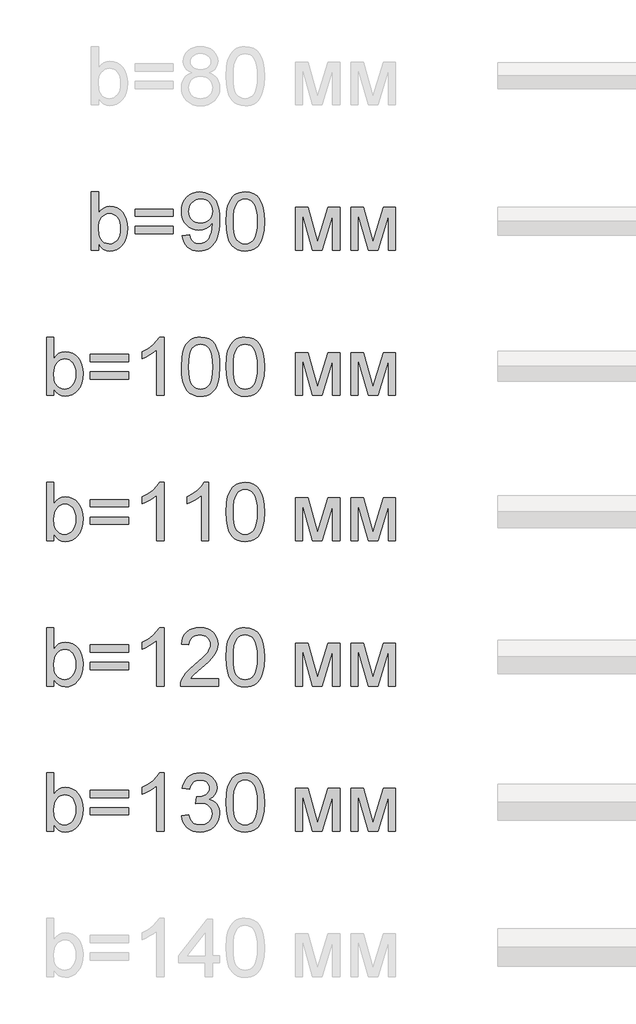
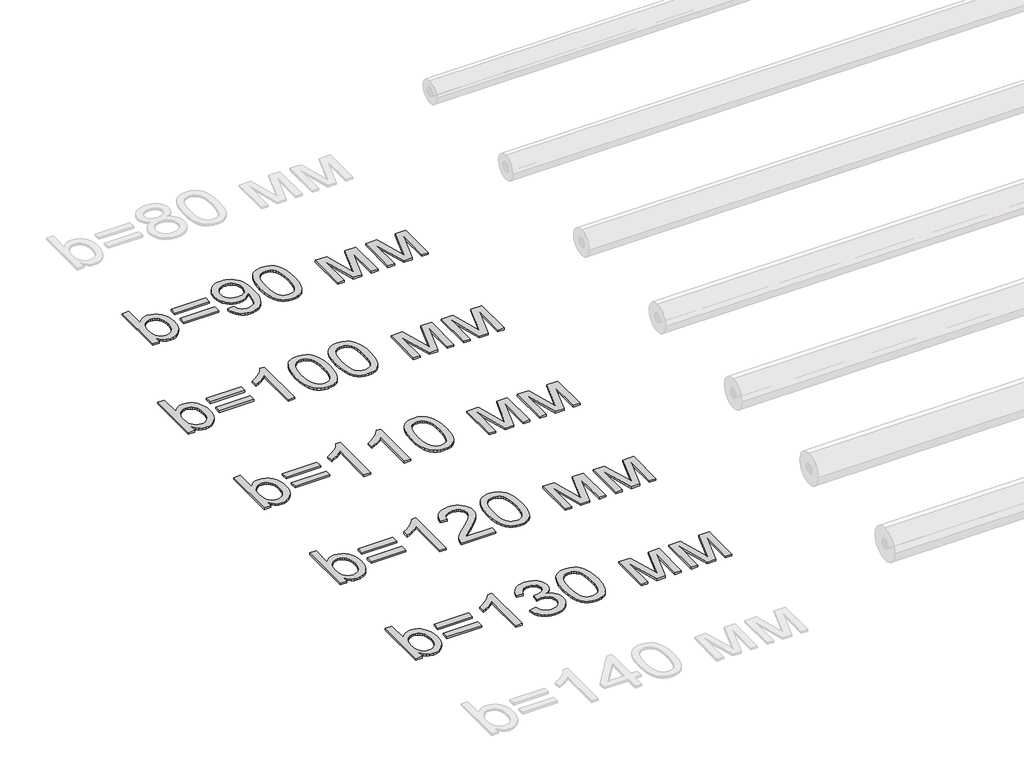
# One storey, part 57 of 86: 5 proxies.
"""IFC4 building model written with IfcOpenShell, lengths in millimetres."""

from ifc_helpers import new_model, si_unit, origin, origin_with_axes, place, context, project, spatial, polyline, outline, extrude, element, save

model = new_model("IFC4")

# Units and contexts
model_context = context("Model", 3, world=origin())
ifc_project = project(units=[si_unit("LENGTHUNIT", "METRE", prefix="MILLI")], contexts=[model_context])

# Site, building, storey
site = spatial("IfcSite", under=ifc_project)
building = spatial("IfcBuilding", under=site)
storey = spatial("IfcBuildingStorey", under=building, Name="Уровень 1", Elevation=0.0)

# Proxies
placement = place(None, origin())
element("IfcBuildingElementProxy", 1, Name="Текст модели 1", ObjectType="Текст модели 1", at=placement, inside=storey, context=model_context, shape_type="SweptSolid", body=[
    extrude(outline(polyline([(23159.6307988, 47169.2937088), (23084.2885662, 47169.2937088), (23084.2885662, 47772.0315697), (23159.6307988, 47772.0315697), (23159.6307988, 47548.5064694), (23184.4076512, 47580.3742473), (23212.3850769, 47603.1369457), (23243.563076, 47616.7945648), (23277.9416484, 47621.3471045), (23316.7531989, 47617.2452202), (23353.4310339, 47604.9395675), (23385.8782258, 47585.2026984), (23411.9978475, 47558.8071653), (23432.4704805, 47526.0104854), (23447.9767066, 47487.0701762), (23457.7439736, 47443.6049185), (23460.9997292, 47397.233393), (23457.6290105, 47343.7249568), (23447.5168541, 47296.6544555), (23430.6632602, 47256.0218892), (23407.0682288, 47221.8272577), (23378.7459136, 47194.7235517), (23347.7104688, 47175.3637617), (23313.9618943, 47163.7478877), (23277.50019, 47159.8759297), (23241.9903805, 47164.8699278), (23210.5088787, 47179.8519221), (23183.0556848, 47204.8219125), (23159.6307988, 47239.7798991), (23159.6307988, 47169.2937088)]), holes=[polyline([(23159.6307988, 47393.7017259), (23164.7811467, 47330.8674811), (23171.2190816, 47307.065516), (23180.2321905, 47288.3403224), (23198.4883345, 47265.0993774), (23219.7059286, 47248.4987024), (23243.8849727, 47238.5382973), (23271.0254669, 47235.2181623), (23293.5582391, 47237.6645776), (23314.5091188, 47245.0038234), (23333.8781058, 47257.2358997), (23351.6652003, 47274.3608066), (23366.5368299, 47296.3325588), (23377.1594225, 47323.105171), (23383.5329781, 47354.6786432), (23385.6574966, 47391.0529755), (23383.6203501, 47428.1170865), (23377.5089104, 47459.9940614), (23367.3231777, 47486.6839001), (23353.0631519, 47508.1866028), (23335.9152524, 47524.7320955), (23317.0658986, 47536.5503046), (23296.5150907, 47543.64123), (23274.2628285, 47546.0048719), (23251.7300563, 47543.5584566), (23230.7791767, 47536.2192108), (23211.4101896, 47523.9871344), (23193.6230951, 47506.8622276), (23178.7514655, 47485.1112046), (23168.1288729, 47459.00078), (23161.7553173, 47428.5309538), (23159.6307988, 47393.7017259)])]), origin_with_axes(), (0.0, 0.0, 1.0), 20.0),
    extrude(outline(polyline([(23931.8886831, 47517.7515346), (23536.3419619, 47517.7515346), (23536.3419619, 47593.0937672), (23931.8886831, 47593.0937672), (23931.8886831, 47517.7515346)])), origin_with_axes(), (0.0, 0.0, 1.0), 20.0),
    extrude(outline(polyline([(23931.8886831, 47338.8137322), (23536.3419619, 47338.8137322), (23536.3419619, 47414.1559648), (23931.8886831, 47414.1559648), (23931.8886831, 47338.8137322)])), origin_with_axes(), (0.0, 0.0, 1.0), 20.0),
    extrude(outline(polyline([(24026.0664738, 47319.978174), (24101.4087064, 47329.3959531), (24114.2845763, 47286.6296712), (24123.7575377, 47270.3646884), (24135.25385, 47257.5118112), (24148.6447546, 47247.7583398), (24163.8014928, 47240.7915746), (24199.41247, 47235.2181623), (24231.3630212, 47238.8050118), (24260.4073048, 47249.5655601), (24284.5403636, 47266.322585), (24301.757241, 47287.898864), (24314.7986577, 47316.2625659), (24326.4053347, 47353.3818592), (24334.572315, 47395.9825942), (24337.2946418, 47440.7906212), (24336.8531834, 47455.505901), (24310.7519558, 47423.6473203), (24276.5941126, 47398.4106154), (24236.844463, 47381.9662902), (24193.9678164, 47376.4848485), (24158.1774968, 47379.8325746), (24125.2658538, 47389.8757531), (24095.2328875, 47406.6143839), (24068.0785977, 47430.048467), (24045.5780152, 47458.9547948), (24029.5061705, 47492.1101596), (24019.8630637, 47529.5145614), (24016.6486948, 47571.1680003), (24020.0194135, 47614.2101938), (24030.1315699, 47652.8378033), (24046.9851638, 47687.0508288), (24070.5801953, 47716.8492704), (24099.2519983, 47740.9915264), (24131.3359068, 47758.2359949), (24166.8319208, 47768.582676), (24205.7400403, 47772.0315697), (24234.4670256, 47770.063401), (24261.934015, 47764.158895), (24288.1410087, 47754.3180516), (24313.0880065, 47740.5408709), (24335.9426754, 47723.1216584), (24355.8726825, 47702.3547198), (24372.8780277, 47678.240055), (24386.9587111, 47650.7776641), (24397.9997695, 47618.3856544), (24405.8862398, 47579.4821334), (24410.6181219, 47534.0671011), (24412.195416, 47482.1405575), (24410.6227204, 47427.6066502), (24405.9046339, 47378.9312638), (24398.0411562, 47336.114398), (24387.0322875, 47299.1560531), (24372.9194145, 47267.154918), (24355.7439238, 47239.209682), (24335.5058156, 47215.3203449), (24312.2050897, 47195.4869069), (24286.3107957, 47179.9071044), (24258.2919833, 47168.778674), (24228.1486523, 47162.1016158), (24195.8808028, 47159.8759297), (24162.0448563, 47162.5016875), (24131.4646655, 47170.3789607), (24104.1402303, 47183.5077494), (24080.0715507, 47201.8880536), (24059.8656321, 47225.0232325), (24044.1294798, 47252.4166456), (24032.8630937, 47284.0682928), (24026.0664738, 47319.978174)]), holes=[polyline([(24336.8531834, 47572.9338339), (24334.8206353, 47599.9363724), (24328.7229913, 47623.9958548), (24318.5602511, 47645.1122814), (24304.332415, 47663.2856519), (24286.7384586, 47677.8997642), (24266.4773577, 47688.3384158), (24243.5491123, 47694.6016068), (24217.9537225, 47696.6893371), (24191.5397953, 47694.4406584), (24167.6274656, 47687.6946223), (24146.2167335, 47676.4512288), (24127.3075989, 47660.710478), (24111.8565551, 47641.3920747), (24100.8200953, 47619.415724), (24094.1982193, 47594.7814259), (24091.9909274, 47567.4891804), (24094.0786577, 47543.0112321), (24100.3418487, 47520.9337139), (24110.7805003, 47501.2566257), (24125.3946125, 47483.9799675), (24143.5771801, 47469.9130797), (24164.7211978, 47459.8653027), (24188.8266656, 47453.8366365), (24215.8935833, 47451.8270811), (24241.1348867, 47453.8366365), (24264.0309424, 47459.8653027), (24284.5817504, 47469.9130797), (24302.7873106, 47483.9799675), (24317.6911299, 47501.5969165), (24328.3367152, 47522.2948773), (24334.7240663, 47546.0738497), (24336.8531834, 47572.9338339)])]), origin_with_axes(), (0.0, 0.0, 1.0), 20.0),
    extrude(outline(polyline([(24478.1198695, 47465.8065969), (24483.6564935, 47562.2836501), (24490.5772736, 47603.1967265), (24500.2663656, 47639.2261694), (24512.682383, 47670.6662845), (24527.7839389, 47697.8113772), (24545.5710333, 47720.6614476), (24566.0436664, 47739.2164957), (24589.2708158, 47753.5730906), (24615.3214596, 47763.8278012), (24644.1955977, 47769.9806276), (24675.8932301, 47772.0315697), (24722.3199379, 47767.1755274), (24763.8906034, 47752.6074004), (24798.6554519, 47728.8974058), (24824.664709, 47696.6157607), (24844.3096075, 47656.0383766), (24859.9813805, 47607.4411651), (24870.2452882, 47545.7289604), (24873.6665907, 47465.8065969), (24868.185149, 47369.8813667), (24861.3333468, 47329.106246), (24851.7408238, 47293.1227884), (24839.4213755, 47261.6688778), (24824.3887975, 47234.4823983), (24806.6430897, 47211.56335), (24786.1842523, 47192.9117329), (24762.9295116, 47178.458569), (24736.7960944, 47168.1348805), (24707.7840006, 47161.9406674), (24675.8932301, 47159.8759297), (24634.3961411, 47163.4627792), (24597.6079415, 47174.2233275), (24565.5286316, 47192.1575748), (24538.1582111, 47217.265521), (24511.8914367, 47262.6529621), (24493.1294549, 47319.2056218), (24481.8722659, 47386.9235001), (24478.1198695, 47465.8065969)]), holes=[polyline([(24553.4621021, 47465.9537497), (24555.6693941, 47400.456959), (24562.29127, 47347.440565), (24573.3277299, 47306.9045676), (24588.7787737, 47278.848967), (24607.467179, 47259.7604899), (24628.2157235, 47246.1258635), (24651.0244072, 47237.9450876), (24675.8932301, 47235.2181623), (24700.762053, 47237.9542847), (24723.5707367, 47246.1626517), (24744.3192812, 47259.8432634), (24763.0076866, 47278.9961198), (24778.4587304, 47307.0977057), (24789.4951902, 47347.624506), (24796.1170661, 47400.5765206), (24798.3243581, 47465.9537497), (24796.1906425, 47529.7168965), (24789.7894958, 47581.79979), (24779.120918, 47622.2024301), (24764.184909, 47650.9248169), (24745.8092033, 47670.9467945), (24724.8215355, 47685.248207), (24701.2219055, 47693.8290546), (24675.0103133, 47696.6893371), (24650.2702492, 47694.1693454), (24627.8478415, 47686.6093704), (24607.7430905, 47674.0094121), (24589.955996, 47656.3694704), (24573.9899175, 47625.0995008), (24562.5855756, 47582.9402242), (24555.7429705, 47529.8916405), (24553.4621021, 47465.9537497)])]), origin_with_axes(), (0.0, 0.0, 1.0), 20.0),
    extrude(outline(polyline([(25193.8710793, 47611.9293254), (25323.5126944, 47611.9293254), (25423.4294443, 47257.5853876), (25531.1452925, 47611.9293254), (25655.3422541, 47611.9293254), (25655.3422541, 47169.2937088), (25580.0000215, 47169.2937088), (25580.0000215, 47525.6977857), (25471.6955621, 47169.2937088), (25372.8088818, 47169.2937088), (25269.2133119, 47542.7675103), (25269.2133119, 47169.2937088), (25193.8710793, 47169.2937088), (25193.8710793, 47611.9293254)])), origin_with_axes(), (0.0, 0.0, 1.0), 20.0),
    extrude(outline(polyline([(25768.355603, 47611.9293254), (25897.9972181, 47611.9293254), (25997.913968, 47257.5853876), (26105.6298162, 47611.9293254), (26229.8267777, 47611.9293254), (26229.8267777, 47169.2937088), (26154.4845451, 47169.2937088), (26154.4845451, 47525.6977857), (26046.1800857, 47169.2937088), (25947.2934054, 47169.2937088), (25843.6978356, 47542.7675103), (25843.6978356, 47169.2937088), (25768.355603, 47169.2937088), (25768.355603, 47611.9293254)])), origin_with_axes(), (0.0, 0.0, 1.0), 20.0),
])
element("IfcBuildingElementProxy", 2, Name="Текст модели 1", ObjectType="Текст модели 1", at=placement, inside=storey, context=model_context, shape_type="SweptSolid", body=[
    extrude(outline(polyline([(22698.159624, 45669.2937088), (22622.8173914, 45669.2937088), (22622.8173914, 46272.0315697), (22698.159624, 46272.0315697), (22698.159624, 46048.5064694), (22722.9364764, 46080.3742473), (22750.9139022, 46103.1369457), (22782.0919012, 46116.7945648), (22816.4704737, 46121.3471045), (22855.2820242, 46117.2452202), (22891.9598591, 46104.9395675), (22924.4070511, 46085.2026984), (22950.5266727, 46058.8071653), (22970.9993058, 46026.0104854), (22986.5055319, 45987.0701762), (22996.2727988, 45943.6049185), (22999.5285545, 45897.233393), (22996.1578357, 45843.7249568), (22986.0456794, 45796.6544555), (22969.1920855, 45756.0218892), (22945.597054, 45721.8272577), (22917.2747389, 45694.7235517), (22886.2392941, 45675.3637617), (22852.4907195, 45663.7478877), (22816.0290153, 45659.8759297), (22780.5192057, 45664.8699278), (22749.037704, 45679.8519221), (22721.5845101, 45704.8219125), (22698.159624, 45739.7798991), (22698.159624, 45669.2937088)]), holes=[polyline([(22698.159624, 45893.7017259), (22703.309972, 45830.8674811), (22709.7479069, 45807.065516), (22718.7610158, 45788.3403224), (22737.0171598, 45765.0993774), (22758.2347539, 45748.4987024), (22782.413798, 45738.5382973), (22809.5542922, 45735.2181623), (22832.0870644, 45737.6645776), (22853.037944, 45745.0038234), (22872.4069311, 45757.2358997), (22890.1940255, 45774.3608066), (22905.0656552, 45796.3325588), (22915.6882478, 45823.105171), (22922.0618034, 45854.6786432), (22924.1863219, 45891.0529755), (22922.1491753, 45928.1170865), (22916.0377357, 45959.9940614), (22905.8520029, 45986.6839001), (22891.5919771, 46008.1866028), (22874.4440776, 46024.7320955), (22855.5947239, 46036.5503046), (22835.0439159, 46043.64123), (22812.7916537, 46046.0048719), (22790.2588815, 46043.5584566), (22769.3080019, 46036.2192108), (22749.9390149, 46023.9871344), (22732.1519204, 46006.8622276), (22717.2802907, 45985.1112046), (22706.6576981, 45959.00078), (22700.2841426, 45928.5309538), (22698.159624, 45893.7017259)])]), origin_with_axes(), (0.0, 0.0, 1.0), 20.0),
    extrude(outline(polyline([(23470.4175083, 46017.7515346), (23074.8707871, 46017.7515346), (23074.8707871, 46093.0937672), (23470.4175083, 46093.0937672), (23470.4175083, 46017.7515346)])), origin_with_axes(), (0.0, 0.0, 1.0), 20.0),
    extrude(outline(polyline([(23470.4175083, 45838.8137322), (23074.8707871, 45838.8137322), (23074.8707871, 45914.1559648), (23470.4175083, 45914.1559648), (23470.4175083, 45838.8137322)])), origin_with_axes(), (0.0, 0.0, 1.0), 20.0),
    extrude(outline(polyline([(23837.7108923, 45669.2937088), (23762.3686597, 45669.2937088), (23762.3686597, 46139.0054402), (23730.9147491, 46113.5664003), (23690.9995526, 46088.1641485), (23649.0977934, 46065.9624701), (23611.6841945, 46050.1251502), (23611.6841945, 46121.3471045), (23670.8580134, 46153.5367791), (23722.1223694, 46191.8332947), (23762.5342066, 46232.5578316), (23789.1504689, 46272.0315697), (23837.7108923, 46272.0315697), (23837.7108923, 45669.2937088)])), origin_with_axes(), (0.0, 0.0, 1.0), 20.0),
    extrude(outline(polyline([(24016.6486948, 45965.8065969), (24022.1853188, 46062.2836501), (24029.1060988, 46103.1967265), (24038.7951909, 46139.2261694), (24051.2112082, 46170.6662845), (24066.3127641, 46197.8113772), (24084.0998586, 46220.6614476), (24104.5724916, 46239.2164957), (24127.7996411, 46253.5730906), (24153.8502849, 46263.8278012), (24182.724423, 46269.9806276), (24214.4220554, 46272.0315697), (24260.8487632, 46267.1755274), (24302.4194286, 46252.6074004), (24337.1842772, 46228.8974058), (24363.1935342, 46196.6157607), (24382.8384328, 46156.0383766), (24398.5102058, 46107.4411651), (24408.7741134, 46045.7289604), (24412.195416, 45965.8065969), (24406.7139742, 45869.8813667), (24399.8621721, 45829.106246), (24390.2696491, 45793.1227884), (24377.9502007, 45761.6688778), (24362.9176227, 45734.4823983), (24345.171915, 45711.56335), (24324.7130775, 45692.9117329), (24301.4583369, 45678.458569), (24275.3249197, 45668.1348805), (24246.3128258, 45661.9406674), (24214.4220554, 45659.8759297), (24172.9249663, 45663.4627792), (24136.1367668, 45674.2233275), (24104.0574568, 45692.1575748), (24076.6870364, 45717.265521), (24050.4202619, 45762.6529621), (24031.6582802, 45819.2056218), (24020.4010911, 45886.9235001), (24016.6486948, 45965.8065969)]), holes=[polyline([(24091.9909274, 45965.9537497), (24094.1982193, 45900.456959), (24100.8200953, 45847.440565), (24111.8565551, 45806.9045676), (24127.3075989, 45778.848967), (24145.9960043, 45759.7604899), (24166.7445488, 45746.1258635), (24189.5532325, 45737.9450876), (24214.4220554, 45735.2181623), (24239.2908782, 45737.9542847), (24262.0995619, 45746.1626517), (24282.8481065, 45759.8432634), (24301.5365118, 45778.9961198), (24316.9875556, 45807.0977057), (24328.0240155, 45847.624506), (24334.6458914, 45900.5765206), (24336.8531834, 45965.9537497), (24334.7194678, 46029.7168965), (24328.3183211, 46081.79979), (24317.6497432, 46122.2024301), (24302.7137342, 46150.9248169), (24284.3380285, 46170.9467945), (24263.3503607, 46185.248207), (24239.7507307, 46193.8290546), (24213.5391386, 46196.6893371), (24188.7990744, 46194.1693454), (24166.3766668, 46186.6093704), (24146.2719158, 46174.0094121), (24128.4848213, 46156.3694704), (24112.5187427, 46125.0995008), (24101.1144009, 46082.9402242), (24094.2717957, 46029.8916405), (24091.9909274, 45965.9537497)])]), origin_with_axes(), (0.0, 0.0, 1.0), 20.0),
    extrude(outline(polyline([(24478.1198695, 45965.8065969), (24483.6564935, 46062.2836501), (24490.5772736, 46103.1967265), (24500.2663656, 46139.2261694), (24512.682383, 46170.6662845), (24527.7839389, 46197.8113772), (24545.5710333, 46220.6614476), (24566.0436664, 46239.2164957), (24589.2708158, 46253.5730906), (24615.3214596, 46263.8278012), (24644.1955977, 46269.9806276), (24675.8932301, 46272.0315697), (24722.3199379, 46267.1755274), (24763.8906034, 46252.6074004), (24798.6554519, 46228.8974058), (24824.664709, 46196.6157607), (24844.3096075, 46156.0383766), (24859.9813805, 46107.4411651), (24870.2452882, 46045.7289604), (24873.6665907, 45965.8065969), (24868.185149, 45869.8813667), (24861.3333468, 45829.106246), (24851.7408238, 45793.1227884), (24839.4213755, 45761.6688778), (24824.3887975, 45734.4823983), (24806.6430897, 45711.56335), (24786.1842523, 45692.9117329), (24762.9295116, 45678.458569), (24736.7960944, 45668.1348805), (24707.7840006, 45661.9406674), (24675.8932301, 45659.8759297), (24634.3961411, 45663.4627792), (24597.6079415, 45674.2233275), (24565.5286316, 45692.1575748), (24538.1582111, 45717.265521), (24511.8914367, 45762.6529621), (24493.1294549, 45819.2056218), (24481.8722659, 45886.9235001), (24478.1198695, 45965.8065969)]), holes=[polyline([(24553.4621021, 45965.9537497), (24555.6693941, 45900.456959), (24562.29127, 45847.440565), (24573.3277299, 45806.9045676), (24588.7787737, 45778.848967), (24607.467179, 45759.7604899), (24628.2157235, 45746.1258635), (24651.0244072, 45737.9450876), (24675.8932301, 45735.2181623), (24700.762053, 45737.9542847), (24723.5707367, 45746.1626517), (24744.3192812, 45759.8432634), (24763.0076866, 45778.9961198), (24778.4587304, 45807.0977057), (24789.4951902, 45847.624506), (24796.1170661, 45900.5765206), (24798.3243581, 45965.9537497), (24796.1906425, 46029.7168965), (24789.7894958, 46081.79979), (24779.120918, 46122.2024301), (24764.184909, 46150.9248169), (24745.8092033, 46170.9467945), (24724.8215355, 46185.248207), (24701.2219055, 46193.8290546), (24675.0103133, 46196.6893371), (24650.2702492, 46194.1693454), (24627.8478415, 46186.6093704), (24607.7430905, 46174.0094121), (24589.955996, 46156.3694704), (24573.9899175, 46125.0995008), (24562.5855756, 46082.9402242), (24555.7429705, 46029.8916405), (24553.4621021, 45965.9537497)])]), origin_with_axes(), (0.0, 0.0, 1.0), 20.0),
    extrude(outline(polyline([(25193.8710793, 46111.9293254), (25323.5126944, 46111.9293254), (25423.4294443, 45757.5853876), (25531.1452925, 46111.9293254), (25655.3422541, 46111.9293254), (25655.3422541, 45669.2937088), (25580.0000215, 45669.2937088), (25580.0000215, 46025.6977857), (25471.6955621, 45669.2937088), (25372.8088818, 45669.2937088), (25269.2133119, 46042.7675103), (25269.2133119, 45669.2937088), (25193.8710793, 45669.2937088), (25193.8710793, 46111.9293254)])), origin_with_axes(), (0.0, 0.0, 1.0), 20.0),
    extrude(outline(polyline([(25768.355603, 46111.9293254), (25897.9972181, 46111.9293254), (25997.913968, 45757.5853876), (26105.6298162, 46111.9293254), (26229.8267777, 46111.9293254), (26229.8267777, 45669.2937088), (26154.4845451, 45669.2937088), (26154.4845451, 46025.6977857), (26046.1800857, 45669.2937088), (25947.2934054, 45669.2937088), (25843.6978356, 46042.7675103), (25843.6978356, 45669.2937088), (25768.355603, 45669.2937088), (25768.355603, 46111.9293254)])), origin_with_axes(), (0.0, 0.0, 1.0), 20.0),
])
element("IfcBuildingElementProxy", 3, Name="Текст модели 1", ObjectType="Текст модели 1", at=placement, inside=storey, context=model_context, shape_type="SweptSolid", body=[
    extrude(outline(polyline([(22698.159624, 44169.2937088), (22622.8173914, 44169.2937088), (22622.8173914, 44772.0315697), (22698.159624, 44772.0315697), (22698.159624, 44548.5064694), (22722.9364764, 44580.3742473), (22750.9139022, 44603.1369457), (22782.0919012, 44616.7945648), (22816.4704737, 44621.3471045), (22855.2820242, 44617.2452202), (22891.9598591, 44604.9395675), (22924.4070511, 44585.2026984), (22950.5266727, 44558.8071653), (22970.9993058, 44526.0104854), (22986.5055319, 44487.0701762), (22996.2727988, 44443.6049185), (22999.5285545, 44397.233393), (22996.1578357, 44343.7249568), (22986.0456794, 44296.6544555), (22969.1920855, 44256.0218892), (22945.597054, 44221.8272577), (22917.2747389, 44194.7235517), (22886.2392941, 44175.3637617), (22852.4907195, 44163.7478877), (22816.0290153, 44159.8759297), (22780.5192057, 44164.8699278), (22749.037704, 44179.8519221), (22721.5845101, 44204.8219125), (22698.159624, 44239.7798991), (22698.159624, 44169.2937088)]), holes=[polyline([(22698.159624, 44393.7017259), (22703.309972, 44330.8674811), (22709.7479069, 44307.065516), (22718.7610158, 44288.3403224), (22737.0171598, 44265.0993774), (22758.2347539, 44248.4987024), (22782.413798, 44238.5382973), (22809.5542922, 44235.2181623), (22832.0870644, 44237.6645776), (22853.037944, 44245.0038234), (22872.4069311, 44257.2358997), (22890.1940255, 44274.3608066), (22905.0656552, 44296.3325588), (22915.6882478, 44323.105171), (22922.0618034, 44354.6786432), (22924.1863219, 44391.0529755), (22922.1491753, 44428.1170865), (22916.0377357, 44459.9940614), (22905.8520029, 44486.6839001), (22891.5919771, 44508.1866028), (22874.4440776, 44524.7320955), (22855.5947239, 44536.5503046), (22835.0439159, 44543.64123), (22812.7916537, 44546.0048719), (22790.2588815, 44543.5584566), (22769.3080019, 44536.2192108), (22749.9390149, 44523.9871344), (22732.1519204, 44506.8622276), (22717.2802907, 44485.1112046), (22706.6576981, 44459.00078), (22700.2841426, 44428.5309538), (22698.159624, 44393.7017259)])]), origin_with_axes(), (0.0, 0.0, 1.0), 20.0),
    extrude(outline(polyline([(23470.4175083, 44517.7515346), (23074.8707871, 44517.7515346), (23074.8707871, 44593.0937672), (23470.4175083, 44593.0937672), (23470.4175083, 44517.7515346)])), origin_with_axes(), (0.0, 0.0, 1.0), 20.0),
    extrude(outline(polyline([(23470.4175083, 44338.8137322), (23074.8707871, 44338.8137322), (23074.8707871, 44414.1559648), (23470.4175083, 44414.1559648), (23470.4175083, 44338.8137322)])), origin_with_axes(), (0.0, 0.0, 1.0), 20.0),
    extrude(outline(polyline([(23837.7108923, 44169.2937088), (23762.3686597, 44169.2937088), (23762.3686597, 44639.0054402), (23730.9147491, 44613.5664003), (23690.9995526, 44588.1641485), (23649.0977934, 44565.9624701), (23611.6841945, 44550.1251502), (23611.6841945, 44621.3471045), (23670.8580134, 44653.5367791), (23722.1223694, 44691.8332947), (23762.5342066, 44732.5578316), (23789.1504689, 44772.0315697), (23837.7108923, 44772.0315697), (23837.7108923, 44169.2937088)])), origin_with_axes(), (0.0, 0.0, 1.0), 20.0),
    extrude(outline(polyline([(24299.1820671, 44169.2937088), (24223.8398344, 44169.2937088), (24223.8398344, 44639.0054402), (24192.3859239, 44613.5664003), (24152.4707274, 44588.1641485), (24110.5689681, 44565.9624701), (24073.1553692, 44550.1251502), (24073.1553692, 44621.3471045), (24132.3291881, 44653.5367791), (24183.5935442, 44691.8332947), (24224.0053813, 44732.5578316), (24250.6216437, 44772.0315697), (24299.1820671, 44772.0315697), (24299.1820671, 44169.2937088)])), origin_with_axes(), (0.0, 0.0, 1.0), 20.0),
    extrude(outline(polyline([(24478.1198695, 44465.8065969), (24483.6564935, 44562.2836501), (24490.5772736, 44603.1967265), (24500.2663656, 44639.2261694), (24512.682383, 44670.6662845), (24527.7839389, 44697.8113772), (24545.5710333, 44720.6614476), (24566.0436664, 44739.2164957), (24589.2708158, 44753.5730906), (24615.3214596, 44763.8278012), (24644.1955977, 44769.9806276), (24675.8932301, 44772.0315697), (24722.3199379, 44767.1755274), (24763.8906034, 44752.6074004), (24798.6554519, 44728.8974058), (24824.664709, 44696.6157607), (24844.3096075, 44656.0383766), (24859.9813805, 44607.4411651), (24870.2452882, 44545.7289604), (24873.6665907, 44465.8065969), (24868.185149, 44369.8813667), (24861.3333468, 44329.106246), (24851.7408238, 44293.1227884), (24839.4213755, 44261.6688778), (24824.3887975, 44234.4823983), (24806.6430897, 44211.56335), (24786.1842523, 44192.9117329), (24762.9295116, 44178.458569), (24736.7960944, 44168.1348805), (24707.7840006, 44161.9406674), (24675.8932301, 44159.8759297), (24634.3961411, 44163.4627792), (24597.6079415, 44174.2233275), (24565.5286316, 44192.1575748), (24538.1582111, 44217.265521), (24511.8914367, 44262.6529621), (24493.1294549, 44319.2056218), (24481.8722659, 44386.9235001), (24478.1198695, 44465.8065969)]), holes=[polyline([(24553.4621021, 44465.9537497), (24555.6693941, 44400.456959), (24562.29127, 44347.440565), (24573.3277299, 44306.9045676), (24588.7787737, 44278.848967), (24607.467179, 44259.7604899), (24628.2157235, 44246.1258635), (24651.0244072, 44237.9450876), (24675.8932301, 44235.2181623), (24700.762053, 44237.9542847), (24723.5707367, 44246.1626517), (24744.3192812, 44259.8432634), (24763.0076866, 44278.9961198), (24778.4587304, 44307.0977057), (24789.4951902, 44347.624506), (24796.1170661, 44400.5765206), (24798.3243581, 44465.9537497), (24796.1906425, 44529.7168965), (24789.7894958, 44581.79979), (24779.120918, 44622.2024301), (24764.184909, 44650.9248169), (24745.8092033, 44670.9467945), (24724.8215355, 44685.248207), (24701.2219055, 44693.8290546), (24675.0103133, 44696.6893371), (24650.2702492, 44694.1693454), (24627.8478415, 44686.6093704), (24607.7430905, 44674.0094121), (24589.955996, 44656.3694704), (24573.9899175, 44625.0995008), (24562.5855756, 44582.9402242), (24555.7429705, 44529.8916405), (24553.4621021, 44465.9537497)])]), origin_with_axes(), (0.0, 0.0, 1.0), 20.0),
    extrude(outline(polyline([(25193.8710793, 44611.9293254), (25323.5126944, 44611.9293254), (25423.4294443, 44257.5853876), (25531.1452925, 44611.9293254), (25655.3422541, 44611.9293254), (25655.3422541, 44169.2937088), (25580.0000215, 44169.2937088), (25580.0000215, 44525.6977857), (25471.6955621, 44169.2937088), (25372.8088818, 44169.2937088), (25269.2133119, 44542.7675103), (25269.2133119, 44169.2937088), (25193.8710793, 44169.2937088), (25193.8710793, 44611.9293254)])), origin_with_axes(), (0.0, 0.0, 1.0), 20.0),
    extrude(outline(polyline([(25768.355603, 44611.9293254), (25897.9972181, 44611.9293254), (25997.913968, 44257.5853876), (26105.6298162, 44611.9293254), (26229.8267777, 44611.9293254), (26229.8267777, 44169.2937088), (26154.4845451, 44169.2937088), (26154.4845451, 44525.6977857), (26046.1800857, 44169.2937088), (25947.2934054, 44169.2937088), (25843.6978356, 44542.7675103), (25843.6978356, 44169.2937088), (25768.355603, 44169.2937088), (25768.355603, 44611.9293254)])), origin_with_axes(), (0.0, 0.0, 1.0), 20.0),
])
element("IfcBuildingElementProxy", 4, Name="Текст модели 1", ObjectType="Текст модели 1", at=placement, inside=storey, context=model_context, shape_type="SweptSolid", body=[
    extrude(outline(polyline([(22698.159624, 42669.2937088), (22622.8173914, 42669.2937088), (22622.8173914, 43272.0315697), (22698.159624, 43272.0315697), (22698.159624, 43048.5064694), (22722.9364764, 43080.3742473), (22750.9139022, 43103.1369457), (22782.0919012, 43116.7945648), (22816.4704737, 43121.3471045), (22855.2820242, 43117.2452202), (22891.9598591, 43104.9395675), (22924.4070511, 43085.2026984), (22950.5266727, 43058.8071653), (22970.9993058, 43026.0104854), (22986.5055319, 42987.0701762), (22996.2727988, 42943.6049185), (22999.5285545, 42897.233393), (22996.1578357, 42843.7249568), (22986.0456794, 42796.6544555), (22969.1920855, 42756.0218892), (22945.597054, 42721.8272577), (22917.2747389, 42694.7235517), (22886.2392941, 42675.3637617), (22852.4907195, 42663.7478877), (22816.0290153, 42659.8759297), (22780.5192057, 42664.8699278), (22749.037704, 42679.8519221), (22721.5845101, 42704.8219125), (22698.159624, 42739.7798991), (22698.159624, 42669.2937088)]), holes=[polyline([(22698.159624, 42893.7017259), (22703.309972, 42830.8674811), (22709.7479069, 42807.065516), (22718.7610158, 42788.3403224), (22737.0171598, 42765.0993774), (22758.2347539, 42748.4987024), (22782.413798, 42738.5382973), (22809.5542922, 42735.2181623), (22832.0870644, 42737.6645776), (22853.037944, 42745.0038234), (22872.4069311, 42757.2358997), (22890.1940255, 42774.3608066), (22905.0656552, 42796.3325588), (22915.6882478, 42823.105171), (22922.0618034, 42854.6786432), (22924.1863219, 42891.0529755), (22922.1491753, 42928.1170865), (22916.0377357, 42959.9940614), (22905.8520029, 42986.6839001), (22891.5919771, 43008.1866028), (22874.4440776, 43024.7320955), (22855.5947239, 43036.5503046), (22835.0439159, 43043.64123), (22812.7916537, 43046.0048719), (22790.2588815, 43043.5584566), (22769.3080019, 43036.2192108), (22749.9390149, 43023.9871344), (22732.1519204, 43006.8622276), (22717.2802907, 42985.1112046), (22706.6576981, 42959.00078), (22700.2841426, 42928.5309538), (22698.159624, 42893.7017259)])]), origin_with_axes(), (0.0, 0.0, 1.0), 20.0),
    extrude(outline(polyline([(23470.4175083, 43017.7515346), (23074.8707871, 43017.7515346), (23074.8707871, 43093.0937672), (23470.4175083, 43093.0937672), (23470.4175083, 43017.7515346)])), origin_with_axes(), (0.0, 0.0, 1.0), 20.0),
    extrude(outline(polyline([(23470.4175083, 42838.8137322), (23074.8707871, 42838.8137322), (23074.8707871, 42914.1559648), (23470.4175083, 42914.1559648), (23470.4175083, 42838.8137322)])), origin_with_axes(), (0.0, 0.0, 1.0), 20.0),
    extrude(outline(polyline([(23837.7108923, 42669.2937088), (23762.3686597, 42669.2937088), (23762.3686597, 43139.0054402), (23730.9147491, 43113.5664003), (23690.9995526, 43088.1641485), (23649.0977934, 43065.9624701), (23611.6841945, 43050.1251502), (23611.6841945, 43121.3471045), (23670.8580134, 43153.5367791), (23722.1223694, 43191.8332947), (23762.5342066, 43232.5578316), (23789.1504689, 43272.0315697), (23837.7108923, 43272.0315697), (23837.7108923, 42669.2937088)])), origin_with_axes(), (0.0, 0.0, 1.0), 20.0),
    extrude(outline(polyline([(24402.7776369, 42744.6359414), (24402.7776369, 42669.2937088), (24007.2309157, 42669.2937088), (24008.8863847, 42695.8180007), (24015.3243196, 42721.2386465), (24033.9023603, 42761.8344247), (24061.0888398, 42801.2161923), (24100.4154251, 42842.4373698), (24155.4137833, 42888.5513779), (24236.7157043, 42960.7666136), (24285.4968568, 43014.0727147), (24299.724693, 43035.8513288), (24309.8874331, 43057.3356373), (24315.9850772, 43078.5256402), (24318.0176252, 43099.4213376), (24316.1000403, 43119.0800317), (24310.3472856, 43137.1476362), (24300.7593611, 43153.624151), (24287.3362668, 43168.5095763), (24270.8229638, 43180.8382216), (24251.964413, 43189.6443969), (24230.7606145, 43194.928102), (24207.2115683, 43196.6893371), (24182.4025262, 43194.9694888), (24160.2146434, 43189.8099438), (24140.6479198, 43181.2107021), (24123.7023554, 43169.1717638), (24109.9941525, 43154.0977991), (24100.1395136, 43136.3934781), (24094.1384385, 43116.0588008), (24091.9909274, 43093.0937672), (24016.6486948, 43102.5115463), (24023.1280164, 43141.4058703), (24034.9140358, 43175.3889696), (24052.006753, 43204.4608442), (24074.406168, 43228.6214943), (24101.597246, 43247.6134023), (24133.0649521, 43261.1790508), (24168.8092865, 43269.31844), (24208.830249, 43272.0315697), (24249.2098965, 43269.0149373), (24285.1473689, 43259.9650403), (24316.6426662, 43244.8818785), (24343.6957885, 43223.7654519), (24365.4238188, 43198.1792592), (24380.9438405, 43169.6867986), (24390.2558535, 43138.2880704), (24393.3598578, 43103.9830743), (24390.0121317, 43067.9490329), (24379.9689532, 43032.5403908), (24362.1450705, 42996.5247435), (24335.4552318, 42958.6696862), (24292.909679, 42913.4753831), (24227.5186544, 42855.4419984), (24140.8456563, 42782.9692453), (24106.85336, 42744.6359414), (24402.7776369, 42744.6359414)])), origin_with_axes(), (0.0, 0.0, 1.0), 20.0),
    extrude(outline(polyline([(24478.1198695, 42965.8065969), (24483.6564935, 43062.2836501), (24490.5772736, 43103.1967265), (24500.2663656, 43139.2261694), (24512.682383, 43170.6662845), (24527.7839389, 43197.8113772), (24545.5710333, 43220.6614476), (24566.0436664, 43239.2164957), (24589.2708158, 43253.5730906), (24615.3214596, 43263.8278012), (24644.1955977, 43269.9806276), (24675.8932301, 43272.0315697), (24722.3199379, 43267.1755274), (24763.8906034, 43252.6074004), (24798.6554519, 43228.8974058), (24824.664709, 43196.6157607), (24844.3096075, 43156.0383766), (24859.9813805, 43107.4411651), (24870.2452882, 43045.7289604), (24873.6665907, 42965.8065969), (24868.185149, 42869.8813667), (24861.3333468, 42829.106246), (24851.7408238, 42793.1227884), (24839.4213755, 42761.6688778), (24824.3887975, 42734.4823983), (24806.6430897, 42711.56335), (24786.1842523, 42692.9117329), (24762.9295116, 42678.458569), (24736.7960944, 42668.1348805), (24707.7840006, 42661.9406674), (24675.8932301, 42659.8759297), (24634.3961411, 42663.4627792), (24597.6079415, 42674.2233275), (24565.5286316, 42692.1575748), (24538.1582111, 42717.265521), (24511.8914367, 42762.6529621), (24493.1294549, 42819.2056218), (24481.8722659, 42886.9235001), (24478.1198695, 42965.8065969)]), holes=[polyline([(24553.4621021, 42965.9537497), (24555.6693941, 42900.456959), (24562.29127, 42847.440565), (24573.3277299, 42806.9045676), (24588.7787737, 42778.848967), (24607.467179, 42759.7604899), (24628.2157235, 42746.1258635), (24651.0244072, 42737.9450876), (24675.8932301, 42735.2181623), (24700.762053, 42737.9542847), (24723.5707367, 42746.1626517), (24744.3192812, 42759.8432634), (24763.0076866, 42778.9961198), (24778.4587304, 42807.0977057), (24789.4951902, 42847.624506), (24796.1170661, 42900.5765206), (24798.3243581, 42965.9537497), (24796.1906425, 43029.7168965), (24789.7894958, 43081.79979), (24779.120918, 43122.2024301), (24764.184909, 43150.9248169), (24745.8092033, 43170.9467945), (24724.8215355, 43185.248207), (24701.2219055, 43193.8290546), (24675.0103133, 43196.6893371), (24650.2702492, 43194.1693454), (24627.8478415, 43186.6093704), (24607.7430905, 43174.0094121), (24589.955996, 43156.3694704), (24573.9899175, 43125.0995008), (24562.5855756, 43082.9402242), (24555.7429705, 43029.8916405), (24553.4621021, 42965.9537497)])]), origin_with_axes(), (0.0, 0.0, 1.0), 20.0),
    extrude(outline(polyline([(25193.8710793, 43111.9293254), (25323.5126944, 43111.9293254), (25423.4294443, 42757.5853876), (25531.1452925, 43111.9293254), (25655.3422541, 43111.9293254), (25655.3422541, 42669.2937088), (25580.0000215, 42669.2937088), (25580.0000215, 43025.6977857), (25471.6955621, 42669.2937088), (25372.8088818, 42669.2937088), (25269.2133119, 43042.7675103), (25269.2133119, 42669.2937088), (25193.8710793, 42669.2937088), (25193.8710793, 43111.9293254)])), origin_with_axes(), (0.0, 0.0, 1.0), 20.0),
    extrude(outline(polyline([(25768.355603, 43111.9293254), (25897.9972181, 43111.9293254), (25997.913968, 42757.5853876), (26105.6298162, 43111.9293254), (26229.8267777, 43111.9293254), (26229.8267777, 42669.2937088), (26154.4845451, 42669.2937088), (26154.4845451, 43025.6977857), (26046.1800857, 42669.2937088), (25947.2934054, 42669.2937088), (25843.6978356, 43042.7675103), (25843.6978356, 42669.2937088), (25768.355603, 42669.2937088), (25768.355603, 43111.9293254)])), origin_with_axes(), (0.0, 0.0, 1.0), 20.0),
])
element("IfcBuildingElementProxy", 5, Name="Текст модели 1", ObjectType="Текст модели 1", at=placement, inside=storey, context=model_context, shape_type="SweptSolid", body=[
    extrude(outline(polyline([(22698.159624, 41169.2937088), (22622.8173914, 41169.2937088), (22622.8173914, 41772.0315697), (22698.159624, 41772.0315697), (22698.159624, 41548.5064694), (22722.9364764, 41580.3742473), (22750.9139022, 41603.1369457), (22782.0919012, 41616.7945648), (22816.4704737, 41621.3471045), (22855.2820242, 41617.2452202), (22891.9598591, 41604.9395675), (22924.4070511, 41585.2026984), (22950.5266727, 41558.8071653), (22970.9993058, 41526.0104854), (22986.5055319, 41487.0701762), (22996.2727988, 41443.6049185), (22999.5285545, 41397.233393), (22996.1578357, 41343.7249568), (22986.0456794, 41296.6544555), (22969.1920855, 41256.0218892), (22945.597054, 41221.8272577), (22917.2747389, 41194.7235517), (22886.2392941, 41175.3637617), (22852.4907195, 41163.7478877), (22816.0290153, 41159.8759297), (22780.5192057, 41164.8699278), (22749.037704, 41179.8519221), (22721.5845101, 41204.8219125), (22698.159624, 41239.7798991), (22698.159624, 41169.2937088)]), holes=[polyline([(22698.159624, 41393.7017259), (22703.309972, 41330.8674811), (22709.7479069, 41307.065516), (22718.7610158, 41288.3403224), (22737.0171598, 41265.0993774), (22758.2347539, 41248.4987024), (22782.413798, 41238.5382973), (22809.5542922, 41235.2181623), (22832.0870644, 41237.6645776), (22853.037944, 41245.0038234), (22872.4069311, 41257.2358997), (22890.1940255, 41274.3608066), (22905.0656552, 41296.3325588), (22915.6882478, 41323.105171), (22922.0618034, 41354.6786432), (22924.1863219, 41391.0529755), (22922.1491753, 41428.1170865), (22916.0377357, 41459.9940614), (22905.8520029, 41486.6839001), (22891.5919771, 41508.1866028), (22874.4440776, 41524.7320955), (22855.5947239, 41536.5503046), (22835.0439159, 41543.64123), (22812.7916537, 41546.0048719), (22790.2588815, 41543.5584566), (22769.3080019, 41536.2192108), (22749.9390149, 41523.9871344), (22732.1519204, 41506.8622276), (22717.2802907, 41485.1112046), (22706.6576981, 41459.00078), (22700.2841426, 41428.5309538), (22698.159624, 41393.7017259)])]), origin_with_axes(), (0.0, 0.0, 1.0), 20.0),
    extrude(outline(polyline([(23470.4175083, 41517.7515346), (23074.8707871, 41517.7515346), (23074.8707871, 41593.0937672), (23470.4175083, 41593.0937672), (23470.4175083, 41517.7515346)])), origin_with_axes(), (0.0, 0.0, 1.0), 20.0),
    extrude(outline(polyline([(23470.4175083, 41338.8137322), (23074.8707871, 41338.8137322), (23074.8707871, 41414.1559648), (23470.4175083, 41414.1559648), (23470.4175083, 41338.8137322)])), origin_with_axes(), (0.0, 0.0, 1.0), 20.0),
    extrude(outline(polyline([(23837.7108923, 41169.2937088), (23762.3686597, 41169.2937088), (23762.3686597, 41639.0054402), (23730.9147491, 41613.5664003), (23690.9995526, 41588.1641485), (23649.0977934, 41565.9624701), (23611.6841945, 41550.1251502), (23611.6841945, 41621.3471045), (23670.8580134, 41653.5367791), (23722.1223694, 41691.8332947), (23762.5342066, 41732.5578316), (23789.1504689, 41772.0315697), (23837.7108923, 41772.0315697), (23837.7108923, 41169.2937088)])), origin_with_axes(), (0.0, 0.0, 1.0), 20.0),
    extrude(outline(polyline([(24016.6486948, 41329.3959531), (24091.9909274, 41338.8137322), (24108.8583168, 41291.4673194), (24120.230469, 41273.5606633), (24133.5615928, 41259.498374), (24149.1551909, 41248.8757814), (24167.3147659, 41241.2882153), (24188.0403178, 41236.7356756), (24211.3318466, 41235.2181623), (24238.6286906, 41237.3058927), (24262.9824787, 41243.5690836), (24284.3932108, 41254.0077352), (24302.860887, 41268.6218475), (24317.7325167, 41286.3169715), (24328.3551093, 41305.9986582), (24334.7286648, 41327.6669077), (24336.8531834, 41351.32172), (24334.7470589, 41373.8498937), (24328.4286857, 41394.3455193), (24317.8980636, 41412.808597), (24303.1551926, 41429.2391266), (24285.165763, 41442.7266002), (24264.8954651, 41452.36051), (24242.3442988, 41458.1408558), (24217.5122641, 41460.0676378), (24193.710299, 41458.0074986), (24164.6844096, 41451.8270811), (24173.0721191, 41527.1693137), (24185.1386485, 41526.2863969), (24230.2777694, 41531.6942622), (24270.6344242, 41547.9178582), (24287.2442963, 41560.1867228), (24299.1084907, 41575.3618551), (24306.2270073, 41593.4432551), (24308.5998461, 41614.430923), (24306.8799978, 41631.4684579), (24301.7204528, 41646.9700854), (24293.1212112, 41660.9358057), (24281.0822729, 41673.3656186), (24266.3302049, 41683.5697454), (24249.5915741, 41690.8584075), (24210.1546242, 41696.6893371), (24189.4980502, 41695.2178091), (24170.6440979, 41690.8032252), (24153.5927675, 41683.4455853), (24138.3440588, 41673.1448894), (24125.2750509, 41659.9011376), (24114.7628229, 41643.7143298), (24106.8073747, 41624.584466), (24101.4087064, 41602.5115463), (24026.0664738, 41611.9293254), (24034.9968093, 41647.8989875), (24048.2497581, 41679.5828243), (24065.8253205, 41706.9808359), (24087.7234962, 41730.0930222), (24113.2545067, 41748.4411368), (24141.7285731, 41761.5469328), (24173.1456955, 41769.4104105), (24207.5058739, 41772.0315697), (24254.8706807, 41766.8628277), (24298.3727267, 41751.3566016), (24335.0505616, 41726.8924489), (24361.9427354, 41694.8499271), (24378.4422429, 41657.9329689), (24383.9420787, 41618.8455069), (24378.7181544, 41582.4251894), (24363.0463814, 41549.3893862), (24337.147489, 41521.2464136), (24301.2422062, 41499.5045877), (24326.3501524, 41491.6503071), (24348.404678, 41480.4483003), (24367.4057831, 41465.8985674), (24383.3534676, 41448.0011083), (24395.97182, 41427.1973815), (24404.9849289, 41403.9288453), (24410.3927942, 41378.1954998), (24412.195416, 41349.9973448), (24408.5901724, 41311.7744055), (24397.7744418, 41276.5680986), (24379.748224, 41244.378424), (24354.5115191, 41215.2053818), (24323.7657814, 41190.9987465), (24289.212465, 41173.7082927), (24250.8515699, 41163.3340205), (24208.6830962, 41159.8759297), (24170.5705215, 41162.8281827), (24135.8424612, 41171.6849418), (24104.4989152, 41186.4462068), (24076.5398836, 41207.1119779), (24053.0966034, 41232.4682444), (24035.3003119, 41261.3009958), (24023.151009, 41293.610232), (24016.6486948, 41329.3959531)])), origin_with_axes(), (0.0, 0.0, 1.0), 20.0),
    extrude(outline(polyline([(24478.1198695, 41465.8065969), (24483.6564935, 41562.2836501), (24490.5772736, 41603.1967265), (24500.2663656, 41639.2261694), (24512.682383, 41670.6662845), (24527.7839389, 41697.8113772), (24545.5710333, 41720.6614476), (24566.0436664, 41739.2164957), (24589.2708158, 41753.5730906), (24615.3214596, 41763.8278012), (24644.1955977, 41769.9806276), (24675.8932301, 41772.0315697), (24722.3199379, 41767.1755274), (24763.8906034, 41752.6074004), (24798.6554519, 41728.8974058), (24824.664709, 41696.6157607), (24844.3096075, 41656.0383766), (24859.9813805, 41607.4411651), (24870.2452882, 41545.7289604), (24873.6665907, 41465.8065969), (24868.185149, 41369.8813667), (24861.3333468, 41329.106246), (24851.7408238, 41293.1227884), (24839.4213755, 41261.6688778), (24824.3887975, 41234.4823983), (24806.6430897, 41211.56335), (24786.1842523, 41192.9117329), (24762.9295116, 41178.458569), (24736.7960944, 41168.1348805), (24707.7840006, 41161.9406674), (24675.8932301, 41159.8759297), (24634.3961411, 41163.4627792), (24597.6079415, 41174.2233275), (24565.5286316, 41192.1575748), (24538.1582111, 41217.265521), (24511.8914367, 41262.6529621), (24493.1294549, 41319.2056218), (24481.8722659, 41386.9235001), (24478.1198695, 41465.8065969)]), holes=[polyline([(24553.4621021, 41465.9537497), (24555.6693941, 41400.456959), (24562.29127, 41347.440565), (24573.3277299, 41306.9045676), (24588.7787737, 41278.848967), (24607.467179, 41259.7604899), (24628.2157235, 41246.1258635), (24651.0244072, 41237.9450876), (24675.8932301, 41235.2181623), (24700.762053, 41237.9542847), (24723.5707367, 41246.1626517), (24744.3192812, 41259.8432634), (24763.0076866, 41278.9961198), (24778.4587304, 41307.0977057), (24789.4951902, 41347.624506), (24796.1170661, 41400.5765206), (24798.3243581, 41465.9537497), (24796.1906425, 41529.7168965), (24789.7894958, 41581.79979), (24779.120918, 41622.2024301), (24764.184909, 41650.9248169), (24745.8092033, 41670.9467945), (24724.8215355, 41685.248207), (24701.2219055, 41693.8290546), (24675.0103133, 41696.6893371), (24650.2702492, 41694.1693454), (24627.8478415, 41686.6093704), (24607.7430905, 41674.0094121), (24589.955996, 41656.3694704), (24573.9899175, 41625.0995008), (24562.5855756, 41582.9402242), (24555.7429705, 41529.8916405), (24553.4621021, 41465.9537497)])]), origin_with_axes(), (0.0, 0.0, 1.0), 20.0),
    extrude(outline(polyline([(25193.8710793, 41611.9293254), (25323.5126944, 41611.9293254), (25423.4294443, 41257.5853876), (25531.1452925, 41611.9293254), (25655.3422541, 41611.9293254), (25655.3422541, 41169.2937088), (25580.0000215, 41169.2937088), (25580.0000215, 41525.6977857), (25471.6955621, 41169.2937088), (25372.8088818, 41169.2937088), (25269.2133119, 41542.7675103), (25269.2133119, 41169.2937088), (25193.8710793, 41169.2937088), (25193.8710793, 41611.9293254)])), origin_with_axes(), (0.0, 0.0, 1.0), 20.0),
    extrude(outline(polyline([(25768.355603, 41611.9293254), (25897.9972181, 41611.9293254), (25997.913968, 41257.5853876), (26105.6298162, 41611.9293254), (26229.8267777, 41611.9293254), (26229.8267777, 41169.2937088), (26154.4845451, 41169.2937088), (26154.4845451, 41525.6977857), (26046.1800857, 41169.2937088), (25947.2934054, 41169.2937088), (25843.6978356, 41542.7675103), (25843.6978356, 41169.2937088), (25768.355603, 41169.2937088), (25768.355603, 41611.9293254)])), origin_with_axes(), (0.0, 0.0, 1.0), 20.0),
])

save(model, "model.ifc")
